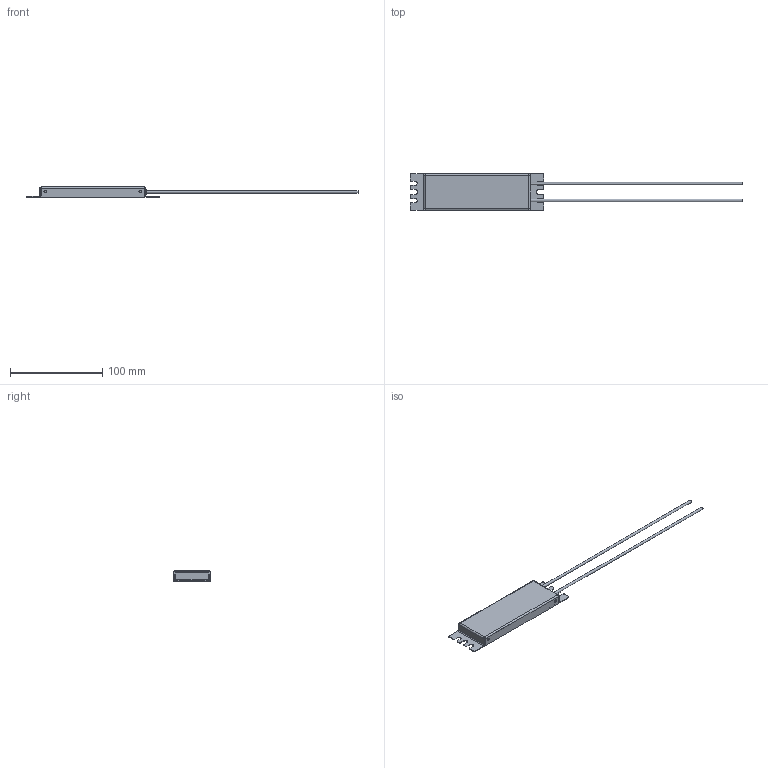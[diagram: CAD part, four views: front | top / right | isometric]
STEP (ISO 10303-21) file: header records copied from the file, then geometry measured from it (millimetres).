
FILE_DESCRIPTION(/* description */ (''),/* implementation_level */ '2;1');
FILE_NAME(/* name */ 'C:\_Vault\Dati\CATALOGO\RFX\RFX100-150-200-300\RFX150.stp',/* time_stamp */ '2014-03-25T21:01:33+01:00',/* author */ ('andreac'),/* organization */ (''),/* preprocessor_version */ 'ST-DEVELOPER v15.2',/* originating_system */ 'Autodesk Inventor 2014',/* authorisation */ '');
FILE_SCHEMA (('AUTOMOTIVE_DESIGN { 1 0 10303 214 3 1 1 }'));
Length unit declared in the file: millimetre
Products named in the file (1): RFX150
Bounding box: 360 x 40 x 11 mm (x, y, z)
Volume: 14549.3 mm3; surface area: 34191.4 mm2
Topology: 6 solids, 6 shells, 156 faces, 384 edges, 240 vertices
Faces by surface type: plane 102, cylinder 54
Full cylindrical faces by diameter (mm): 2.7 x2, 3 x8, 4.8 x2, 6 x2, 7 x2
Entity records: 4646 total; most frequent: DIRECTION 786, CARTESIAN_POINT 749, ORIENTED_EDGE 728, EDGE_CURVE 360, AXIS2_PLACEMENT_3D 269, LINE 248, VECTOR 248, VERTEX_POINT 232
